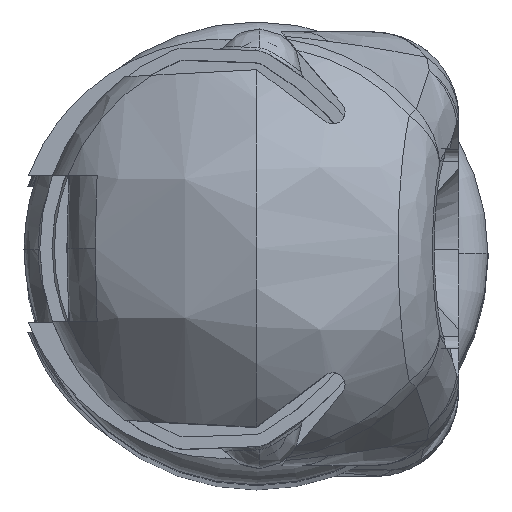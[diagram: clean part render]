
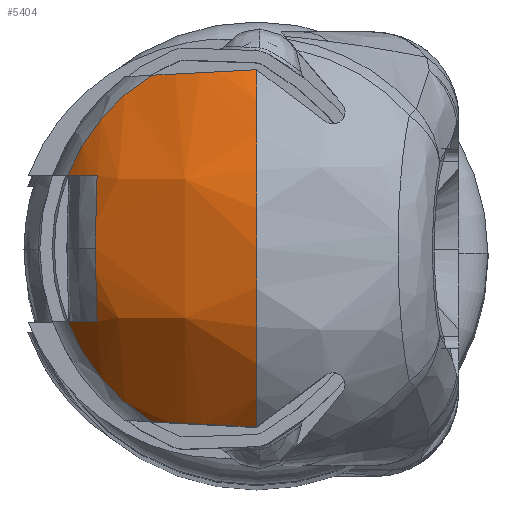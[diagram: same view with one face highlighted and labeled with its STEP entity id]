
A CAD part, top view. The second image highlights one B-rep face of the part: STEP entity #5404.
In plain terms, the highlighted free-form (B-spline) face has degree [3, 3] with [4, 4] control points.
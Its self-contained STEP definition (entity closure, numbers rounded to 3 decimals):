
#660 = VERTEX_POINT ( 'NONE', #16158 ) ;
#748 = VERTEX_POINT ( 'NONE', #16103 ) ;
#980 = VERTEX_POINT ( 'NONE', #16054 ) ;
#1315 = VERTEX_POINT ( 'NONE', #16551 ) ;
#1998 = CIRCLE ( 'NONE', #2022, 9.539 ) ;
#2004 = CIRCLE ( 'NONE', #2011, 8.157 ) ;
#2011 = AXIS2_PLACEMENT_3D ( 'NONE', #6896, #6894, #6893 ) ;
#2021 = CIRCLE ( 'NONE', #2024, 9.539 ) ;
#2022 = AXIS2_PLACEMENT_3D ( 'NONE', #6811, #6806, #6805 ) ;
#2024 = AXIS2_PLACEMENT_3D ( 'NONE', #6759, #6757, #6659 ) ;
#2031 = CIRCLE ( 'NONE', #2039, 8.308 ) ;
#2039 = AXIS2_PLACEMENT_3D ( 'NONE', #6947, #7041, #7047 ) ;
#2043 = CIRCLE ( 'NONE', #2050, 8.308 ) ;
#2050 = AXIS2_PLACEMENT_3D ( 'NONE', #6810, #6813, #6788 ) ;
#2105 = B_SPLINE_CURVE_WITH_KNOTS ( 'NONE', 3,
 ( #6831, #6830, #6829, #6828, #6827, #6826 ),
 .UNSPECIFIED., .F., .F.,
 ( 4, 2, 4 ),
 ( 0., 0.002, 0.005 ),
 .UNSPECIFIED. ) ;
#2114 = B_SPLINE_CURVE_WITH_KNOTS ( 'NONE', 3,
 ( #6798, #6763, #6758, #6804, #6785, #6874 ),
 .UNSPECIFIED., .F., .F.,
 ( 4, 2, 4 ),
 ( 0., 0.002, 0.005 ),
 .UNSPECIFIED. ) ;
#2265 = CIRCLE ( 'NONE', #2282, 10. ) ;
#2282 = AXIS2_PLACEMENT_3D ( 'NONE', #7459, #7460, #7461 ) ;
#2459 = CIRCLE ( 'NONE', #2465, 8.157 ) ;
#2465 = AXIS2_PLACEMENT_3D ( 'NONE', #7844, #7845, #7846 ) ;
#3390 = EDGE_LOOP ( 'NONE', ( #4379, #4381, #4380, #4383, #4382, #4384, #4385, #4386, #4387 ) ) ;
#4379 = ORIENTED_EDGE ( 'NONE', *, *, #13414, .F. ) ;
#4380 = ORIENTED_EDGE ( 'NONE', *, *, #11748, .T. ) ;
#4381 = ORIENTED_EDGE ( 'NONE', *, *, #11758, .F. ) ;
#4382 = ORIENTED_EDGE ( 'NONE', *, *, #11718, .T. ) ;
#4383 = ORIENTED_EDGE ( 'NONE', *, *, #11733, .T. ) ;
#4384 = ORIENTED_EDGE ( 'NONE', *, *, #13644, .T. ) ;
#4385 = ORIENTED_EDGE ( 'NONE', *, *, #11730, .F. ) ;
#4386 = ORIENTED_EDGE ( 'NONE', *, *, #11759, .F. ) ;
#4387 = ORIENTED_EDGE ( 'NONE', *, *, #11727, .F. ) ;
#5169 = VERTEX_POINT ( 'NONE', #15011 ) ;
#5170 = VERTEX_POINT ( 'NONE', #15010 ) ;
#5180 = VERTEX_POINT ( 'NONE', #15005 ) ;
#5181 = VERTEX_POINT ( 'NONE', #15007 ) ;
#5185 = VERTEX_POINT ( 'NONE', #15153 ) ;
#5404 = ADVANCED_FACE ( 'NONE', ( #6312 ), #6199, .T. ) ;
#6199 =( BOUNDED_SURFACE ( )  B_SPLINE_SURFACE ( 3, 3, ( 
 ( #14629, #14631, #14633, #14634 ),
 ( #14635, #14636, #14637, #14638 ),
 ( #14639, #14641, #14642, #14644 ),
 ( #14646, #14647, #14648, #14649 ) ),
 .UNSPECIFIED., .F., .F., .F. ) 
 B_SPLINE_SURFACE_WITH_KNOTS ( ( 4, 4 ),
 ( 4, 4 ),
 ( 0., 1. ),
 ( 0., 1. ),
 .UNSPECIFIED. ) 
 GEOMETRIC_REPRESENTATION_ITEM ( )  RATIONAL_B_SPLINE_SURFACE ( (
 ( 1., 0.926, 0.926, 1.),
 ( 0.782, 0.724, 0.724, 0.782),
 ( 0.782, 0.724, 0.724, 0.782),
 ( 1., 0.926, 0.926, 1.) ) ) 
 REPRESENTATION_ITEM ( '' )  SURFACE ( )  );
#6312 = FACE_OUTER_BOUND ( 'NONE', #3390, .T. ) ;
#6659 = DIRECTION ( 'NONE',  ( 1., 0., 0. ) ) ;
#6757 = DIRECTION ( 'NONE',  ( 0., -1., 0. ) ) ;
#6758 = CARTESIAN_POINT ( 'NONE',  ( -7.834, -7.178, 2.99 ) ) ;
#6759 = CARTESIAN_POINT ( 'NONE',  ( -1.5, -3., 0. ) ) ;
#6763 = CARTESIAN_POINT ( 'NONE',  ( -7.508, -7.143, 3.671 ) ) ;
#6785 = CARTESIAN_POINT ( 'NONE',  ( -8.34, -7.295, 0.765 ) ) ;
#6788 = DIRECTION ( 'NONE',  ( 0., 0., -1. ) ) ;
#6798 = CARTESIAN_POINT ( 'NONE',  ( -7.066, -7.11, 4.298 ) ) ;
#6804 = CARTESIAN_POINT ( 'NONE',  ( -8.256, -7.256, 1.517 ) ) ;
#6805 = DIRECTION ( 'NONE',  ( 1., 0., 0. ) ) ;
#6806 = DIRECTION ( 'NONE',  ( 0., -1., 0. ) ) ;
#6810 = CARTESIAN_POINT ( 'NONE',  ( -7.066, 0., 0. ) ) ;
#6811 = CARTESIAN_POINT ( 'NONE',  ( -1.5, 3., 0. ) ) ;
#6813 = DIRECTION ( 'NONE',  ( 1., 0., 0. ) ) ;
#6826 = CARTESIAN_POINT ( 'NONE',  ( -7.066, 7.11, 4.298 ) ) ;
#6827 = CARTESIAN_POINT ( 'NONE',  ( -7.508, 7.143, 3.671 ) ) ;
#6828 = CARTESIAN_POINT ( 'NONE',  ( -7.835, 7.178, 2.989 ) ) ;
#6829 = CARTESIAN_POINT ( 'NONE',  ( -8.256, 7.256, 1.516 ) ) ;
#6830 = CARTESIAN_POINT ( 'NONE',  ( -8.34, 7.295, 0.765 ) ) ;
#6831 = CARTESIAN_POINT ( 'NONE',  ( -8.297, 7.335, 0. ) ) ;
#6874 = CARTESIAN_POINT ( 'NONE',  ( -8.297, -7.335, 0. ) ) ;
#6893 = DIRECTION ( 'NONE',  ( -0.995, 0., 0.105 ) ) ;
#6894 = DIRECTION ( 'NONE',  ( -0.105, 0., -0.995 ) ) ;
#6896 = CARTESIAN_POINT ( 'NONE',  ( -0.895, 0., 5.753 ) ) ;
#6947 = CARTESIAN_POINT ( 'NONE',  ( -7.066, 0., 0. ) ) ;
#7041 = DIRECTION ( 'NONE',  ( -1., 0., 0. ) ) ;
#7047 = DIRECTION ( 'NONE',  ( 0., 0., -1. ) ) ;
#7459 = CARTESIAN_POINT ( 'NONE',  ( -1.5, 0., 0. ) ) ;
#7460 = DIRECTION ( 'NONE',  ( 0., 0., -1. ) ) ;
#7461 = DIRECTION ( 'NONE',  ( 0., -1., 0. ) ) ;
#7844 = CARTESIAN_POINT ( 'NONE',  ( -0.895, 0., 5.753 ) ) ;
#7845 = DIRECTION ( 'NONE',  ( -0.105, 0., -0.995 ) ) ;
#7846 = DIRECTION ( 'NONE',  ( -0.995, 0., 0.105 ) ) ;
#11718 = EDGE_CURVE ( 'NONE', #5185, #980, #2004, .T. ) ;
#11727 = EDGE_CURVE ( 'NONE', #1315, #5169, #2105, .T. ) ;
#11730 = EDGE_CURVE ( 'NONE', #5170, #660, #1998, .T. ) ;
#11733 = EDGE_CURVE ( 'NONE', #5181, #5185, #2021, .T. ) ;
#11748 = EDGE_CURVE ( 'NONE', #5180, #5181, #2031, .T. ) ;
#11758 = EDGE_CURVE ( 'NONE', #5180, #748, #2114, .T. ) ;
#11759 = EDGE_CURVE ( 'NONE', #5169, #5170, #2043, .T. ) ;
#13414 = EDGE_CURVE ( 'NONE', #748, #1315, #2265, .T. ) ;
#13644 = EDGE_CURVE ( 'NONE', #980, #660, #2459, .T. ) ;
#14629 = CARTESIAN_POINT ( 'NONE',  ( -5.392, -7.402, 5.483 ) ) ;
#14631 = CARTESIAN_POINT ( 'NONE',  ( -7.204, -7.402, 4.197 ) ) ;
#14633 = CARTESIAN_POINT ( 'NONE',  ( -8.224, -7.402, 2.222 ) ) ;
#14634 = CARTESIAN_POINT ( 'NONE',  ( -8.224, -7.402, 0. ) ) ;
#14635 = CARTESIAN_POINT ( 'NONE',  ( -8.097, -3.157, 9.293 ) ) ;
#14636 = CARTESIAN_POINT ( 'NONE',  ( -11.169, -3.157, 7.113 ) ) ;
#14637 = CARTESIAN_POINT ( 'NONE',  ( -12.897, -3.157, 3.767 ) ) ;
#14638 = CARTESIAN_POINT ( 'NONE',  ( -12.897, -3.157, 0. ) ) ;
#14639 = CARTESIAN_POINT ( 'NONE',  ( -8.097, 3.157, 9.293 ) ) ;
#14641 = CARTESIAN_POINT ( 'NONE',  ( -11.169, 3.157, 7.113 ) ) ;
#14642 = CARTESIAN_POINT ( 'NONE',  ( -12.897, 3.157, 3.767 ) ) ;
#14644 = CARTESIAN_POINT ( 'NONE',  ( -12.897, 3.157, 0. ) ) ;
#14646 = CARTESIAN_POINT ( 'NONE',  ( -5.392, 7.402, 5.483 ) ) ;
#14647 = CARTESIAN_POINT ( 'NONE',  ( -7.204, 7.402, 4.197 ) ) ;
#14648 = CARTESIAN_POINT ( 'NONE',  ( -8.224, 7.402, 2.222 ) ) ;
#14649 = CARTESIAN_POINT ( 'NONE',  ( -8.224, 7.402, 0. ) ) ;
#15005 = CARTESIAN_POINT ( 'NONE',  ( -7.066, -7.11, 4.298 ) ) ;
#15007 = CARTESIAN_POINT ( 'NONE',  ( -7.066, -3., 7.747 ) ) ;
#15010 = CARTESIAN_POINT ( 'NONE',  ( -7.066, 3., 7.747 ) ) ;
#15011 = CARTESIAN_POINT ( 'NONE',  ( -7.066, 7.11, 4.298 ) ) ;
#15153 = CARTESIAN_POINT ( 'NONE',  ( -8.439, -3., 6.546 ) ) ;
#16054 = CARTESIAN_POINT ( 'NONE',  ( -9.008, 0., 6.606 ) ) ;
#16103 = CARTESIAN_POINT ( 'NONE',  ( -8.297, -7.335, 0. ) ) ;
#16158 = CARTESIAN_POINT ( 'NONE',  ( -8.439, 3., 6.546 ) ) ;
#16551 = CARTESIAN_POINT ( 'NONE',  ( -8.297, 7.335, 0. ) ) ;
